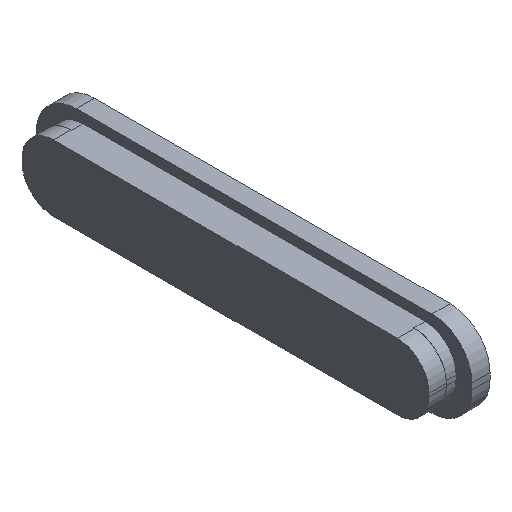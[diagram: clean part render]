
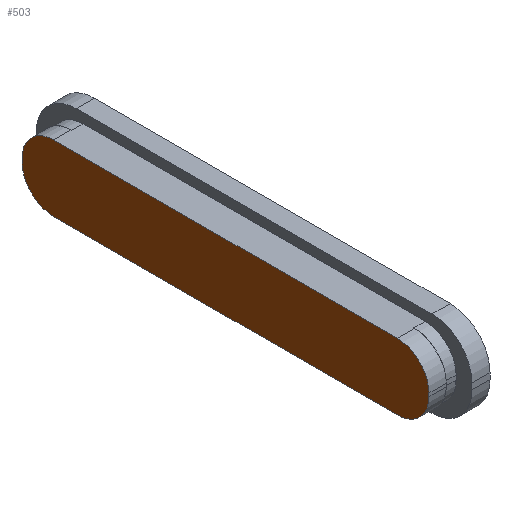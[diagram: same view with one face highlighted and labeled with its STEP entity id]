
A CAD part, isometric view. The second image highlights one B-rep face of the part: STEP entity #503.
In plain terms, the highlighted planar face has unit normal (-1, 0, 0).
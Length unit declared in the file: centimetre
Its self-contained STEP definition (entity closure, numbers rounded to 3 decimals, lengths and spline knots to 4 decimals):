
#49=FACE_OUTER_BOUND('',#77,.T.);
#77=EDGE_LOOP('',(#439,#440,#441,#442,#443,#444,#445,#446));
#108=LINE('',#807,#156);
#123=LINE('',#851,#171);
#126=LINE('',#859,#174);
#127=LINE('',#864,#175);
#156=VECTOR('',#651,1.);
#171=VECTOR('',#696,1.);
#174=VECTOR('',#705,1.);
#175=VECTOR('',#710,1.);
#199=CIRCLE('',#564,0.42);
#200=CIRCLE('',#566,0.42);
#201=CIRCLE('',#567,0.42);
#202=CIRCLE('',#568,0.42);
#231=VERTEX_POINT('',#804);
#232=VERTEX_POINT('',#806);
#245=VERTEX_POINT('',#848);
#246=VERTEX_POINT('',#850);
#247=VERTEX_POINT('',#854);
#248=VERTEX_POINT('',#858);
#249=VERTEX_POINT('',#861);
#250=VERTEX_POINT('',#863);
#289=EDGE_CURVE('',#232,#231,#108,.T.);
#311=EDGE_CURVE('',#246,#245,#123,.T.);
#314=EDGE_CURVE('',#231,#247,#199,.T.);
#315=EDGE_CURVE('',#247,#248,#126,.T.);
#316=EDGE_CURVE('',#248,#246,#200,.T.);
#317=EDGE_CURVE('',#245,#249,#201,.T.);
#318=EDGE_CURVE('',#249,#250,#127,.T.);
#319=EDGE_CURVE('',#250,#232,#202,.T.);
#439=ORIENTED_EDGE('',*,*,#314,.T.);
#440=ORIENTED_EDGE('',*,*,#315,.T.);
#441=ORIENTED_EDGE('',*,*,#316,.T.);
#442=ORIENTED_EDGE('',*,*,#311,.T.);
#443=ORIENTED_EDGE('',*,*,#317,.T.);
#444=ORIENTED_EDGE('',*,*,#318,.T.);
#445=ORIENTED_EDGE('',*,*,#319,.T.);
#446=ORIENTED_EDGE('',*,*,#289,.T.);
#479=PLANE('',#565);
#503=ADVANCED_FACE('',(#49),#479,.F.);
#564=AXIS2_PLACEMENT_3D('',#856,#701,#702);
#565=AXIS2_PLACEMENT_3D('',#857,#703,#704);
#566=AXIS2_PLACEMENT_3D('',#860,#706,#707);
#567=AXIS2_PLACEMENT_3D('',#862,#708,#709);
#568=AXIS2_PLACEMENT_3D('',#865,#711,#712);
#651=DIRECTION('',(0.,1.,0.));
#696=DIRECTION('',(0.,-1.,0.));
#701=DIRECTION('center_axis',(-1.,0.,0.));
#702=DIRECTION('ref_axis',(0.,1.,0.));
#703=DIRECTION('center_axis',(1.,0.,0.));
#704=DIRECTION('ref_axis',(0.,1.,0.));
#705=DIRECTION('',(0.,0.,-1.));
#706=DIRECTION('center_axis',(-1.,0.,0.));
#707=DIRECTION('ref_axis',(0.,1.,0.));
#708=DIRECTION('center_axis',(-1.,0.,0.));
#709=DIRECTION('ref_axis',(0.,1.,0.));
#710=DIRECTION('',(0.,0.,1.));
#711=DIRECTION('center_axis',(-1.,0.,0.));
#712=DIRECTION('ref_axis',(0.,1.,0.));
#804=CARTESIAN_POINT('',(-3.9,3.28,-0.39));
#806=CARTESIAN_POINT('',(-3.9,-1.28,-0.39));
#807=CARTESIAN_POINT('',(-3.9,1.,-0.39));
#848=CARTESIAN_POINT('',(-3.9,-1.28,-1.27));
#850=CARTESIAN_POINT('',(-3.9,3.28,-1.27));
#851=CARTESIAN_POINT('',(-3.9,1.,-1.27));
#854=CARTESIAN_POINT('',(-3.9,3.7,-0.81));
#856=CARTESIAN_POINT('Origin',(-3.9,3.28,-0.81));
#857=CARTESIAN_POINT('Origin',(-3.9,1.,-0.83));
#858=CARTESIAN_POINT('',(-3.9,3.7,-0.85));
#859=CARTESIAN_POINT('',(-3.9,3.7,-0.83));
#860=CARTESIAN_POINT('Origin',(-3.9,3.28,-0.85));
#861=CARTESIAN_POINT('',(-3.9,-1.7,-0.85));
#862=CARTESIAN_POINT('Origin',(-3.9,-1.28,-0.85));
#863=CARTESIAN_POINT('',(-3.9,-1.7,-0.81));
#864=CARTESIAN_POINT('',(-3.9,-1.7,-0.83));
#865=CARTESIAN_POINT('Origin',(-3.9,-1.28,-0.81));
